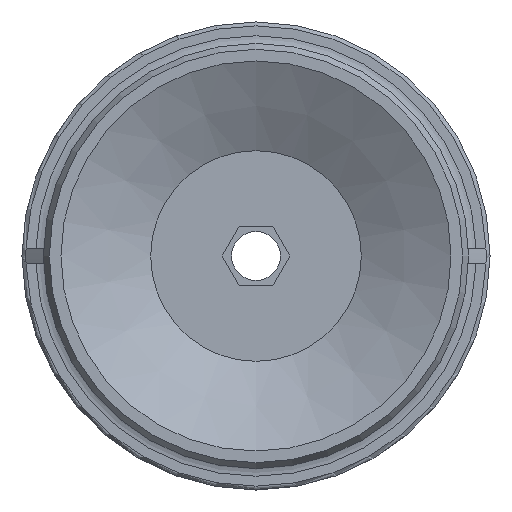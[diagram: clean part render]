
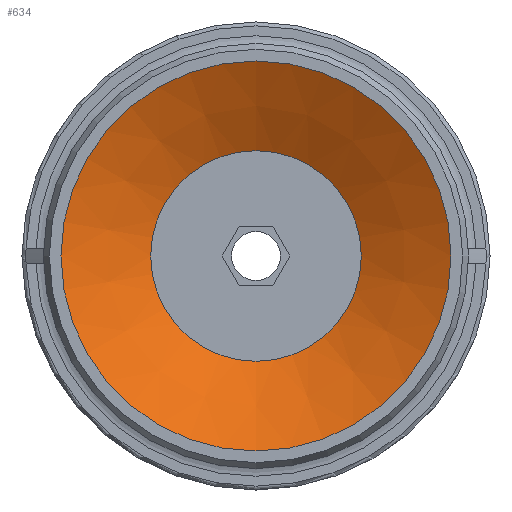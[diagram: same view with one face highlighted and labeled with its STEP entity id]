
A CAD part, front view. The second image highlights one B-rep face of the part: STEP entity #634.
In plain terms, the highlighted conical face has half-angle 61.631 degrees and reference radius 5.4 mm.
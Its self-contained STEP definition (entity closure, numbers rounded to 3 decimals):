
#634=ADVANCED_FACE('',(#948,#949),#950,.F.);
#948=FACE_BOUND('',#1299,.T.);
#949=FACE_OUTER_BOUND('',#1300,.T.);
#950=CONICAL_SURFACE('',#1301,5.4,1.076);
#1299=EDGE_LOOP('',(#2195));
#1300=EDGE_LOOP('',(#2196));
#1301=AXIS2_PLACEMENT_3D('',#2197,#2198,#2199);
#2195=ORIENTED_EDGE('',*,*,#2576,.F.);
#2196=ORIENTED_EDGE('',*,*,#2578,.T.);
#2197=CARTESIAN_POINT('',(0.0,2.484,0.0));
#2198=DIRECTION('',(-0.0,-1.0,0.));
#2199=DIRECTION('',(0.0,0.,-1.0));
#2576=EDGE_CURVE('',#3012,#3012,#3013,.T.);
#2578=EDGE_CURVE('',#3016,#3016,#3017,.T.);
#3012=VERTEX_POINT('',#3912);
#3013=CIRCLE('',#3913,5.4);
#3016=VERTEX_POINT('',#3916);
#3017=CIRCLE('',#3917,10.0);
#3912=CARTESIAN_POINT('',(0.0,2.484,-5.4));
#3913=AXIS2_PLACEMENT_3D('',#4360,#4361,#4362);
#3916=CARTESIAN_POINT('',(0.0,0.,-10.0));
#3917=AXIS2_PLACEMENT_3D('',#4366,#4367,#4368);
#4360=CARTESIAN_POINT('',(0.0,2.484,0.0));
#4361=DIRECTION('',(0.0,-1.0,0.));
#4362=DIRECTION('',(0.0,0.,-1.0));
#4366=CARTESIAN_POINT('',(0.0,0.0,0.0));
#4367=DIRECTION('',(0.0,-1.0,0.));
#4368=DIRECTION('',(0.0,0.,-1.0));
